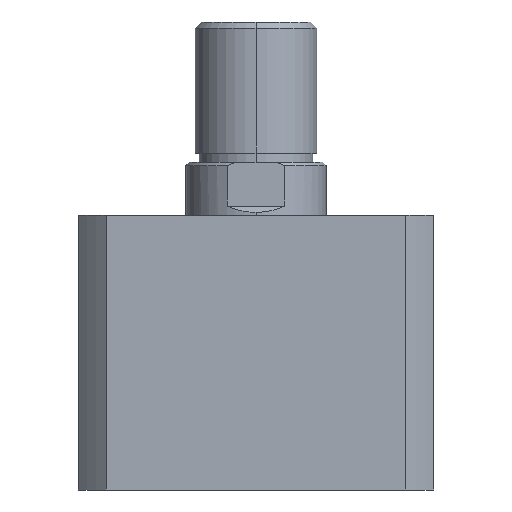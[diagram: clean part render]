
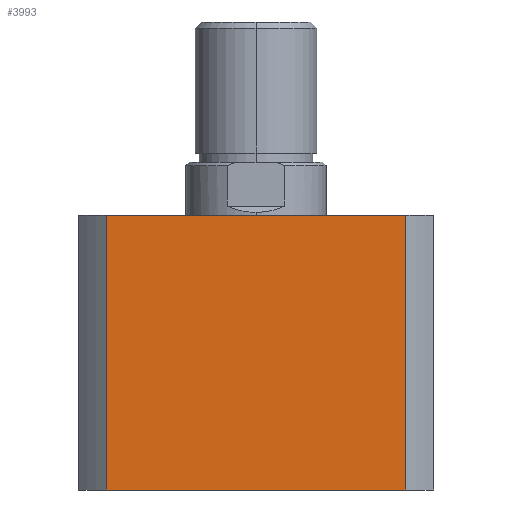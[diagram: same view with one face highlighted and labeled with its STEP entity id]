
A CAD part, left-side view. The second image highlights one B-rep face of the part: STEP entity #3993.
In plain terms, the highlighted planar face has unit normal (-1, 0, 0).
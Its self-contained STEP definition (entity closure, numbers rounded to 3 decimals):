
#564 = CARTESIAN_POINT ( 'NONE',  ( -57., 0., 0. ) ) ;
#579 = DIRECTION ( 'NONE',  ( 0., -1., 0. ) ) ;
#725 = CARTESIAN_POINT ( 'NONE',  ( -57., 47.971, 88. ) ) ;
#757 = CARTESIAN_POINT ( 'NONE',  ( -57., 47.971, 0. ) ) ;
#817 = CARTESIAN_POINT ( 'NONE',  ( -57., -47.971, 88. ) ) ;
#898 = EDGE_LOOP ( 'NONE', ( #1258, #1249, #1250, #1251 ) ) ;
#936 = VERTEX_POINT ( 'NONE', #1569 ) ;
#1155 = VERTEX_POINT ( 'NONE', #817 ) ;
#1171 = VERTEX_POINT ( 'NONE', #757 ) ;
#1179 = VERTEX_POINT ( 'NONE', #725 ) ;
#1249 = ORIENTED_EDGE ( 'NONE', *, *, #2618, .F. ) ;
#1250 = ORIENTED_EDGE ( 'NONE', *, *, #2620, .F. ) ;
#1251 = ORIENTED_EDGE ( 'NONE', *, *, #2604, .T. ) ;
#1258 = ORIENTED_EDGE ( 'NONE', *, *, #2508, .T. ) ;
#1569 = CARTESIAN_POINT ( 'NONE',  ( -57., -47.971, 0. ) ) ;
#1760 = AXIS2_PLACEMENT_3D ( 'NONE', #4309, #4388, #4387 ) ;
#2508 = EDGE_CURVE ( 'NONE', #1171, #936, #3282, .T. ) ;
#2604 = EDGE_CURVE ( 'NONE', #1179, #1171, #3414, .T. ) ;
#2618 = EDGE_CURVE ( 'NONE', #1155, #936, #3434, .T. ) ;
#2620 = EDGE_CURVE ( 'NONE', #1179, #1155, #3440, .T. ) ;
#3018 = FACE_OUTER_BOUND ( 'NONE', #898, .T. ) ;
#3282 = LINE ( 'NONE', #564, #3288 ) ;
#3288 = VECTOR ( 'NONE', #579, 1000. ) ;
#3414 = LINE ( 'NONE', #4891, #3418 ) ;
#3418 = VECTOR ( 'NONE', #4885, 1000. ) ;
#3434 = LINE ( 'NONE', #4844, #3439 ) ;
#3439 = VECTOR ( 'NONE', #4851, 1000. ) ;
#3440 = LINE ( 'NONE', #4834, #3443 ) ;
#3443 = VECTOR ( 'NONE', #4833, 1000. ) ;
#3993 = ADVANCED_FACE ( 'NONE', ( #3018 ), #4307, .F. ) ;
#4307 = PLANE ( 'NONE',  #1760 ) ;
#4309 = CARTESIAN_POINT ( 'NONE',  ( -57., 0., 88. ) ) ;
#4387 = DIRECTION ( 'NONE',  ( 0., 0., -1. ) ) ;
#4388 = DIRECTION ( 'NONE',  ( 1., 0., 0. ) ) ;
#4833 = DIRECTION ( 'NONE',  ( 0., -1., 0. ) ) ;
#4834 = CARTESIAN_POINT ( 'NONE',  ( -57., 0., 88. ) ) ;
#4844 = CARTESIAN_POINT ( 'NONE',  ( -57., -47.971, 88. ) ) ;
#4851 = DIRECTION ( 'NONE',  ( 0., 0., -1. ) ) ;
#4885 = DIRECTION ( 'NONE',  ( 0., 0., -1. ) ) ;
#4891 = CARTESIAN_POINT ( 'NONE',  ( -57., 47.971, 88. ) ) ;
